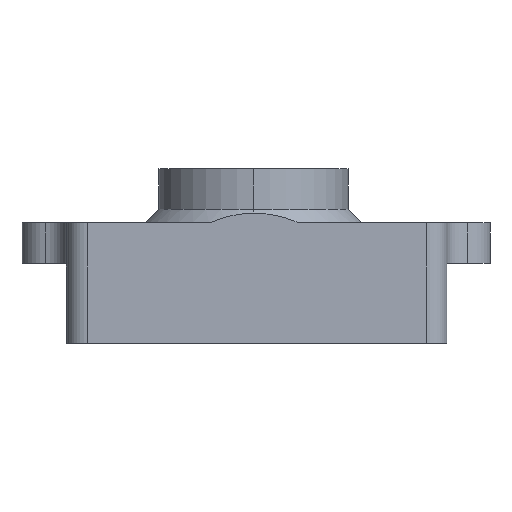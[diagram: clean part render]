
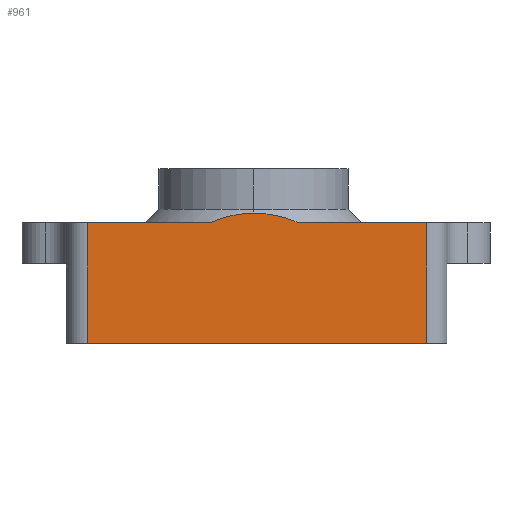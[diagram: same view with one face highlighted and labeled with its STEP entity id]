
A CAD part, left-side view. The second image highlights one B-rep face of the part: STEP entity #961.
In plain terms, the highlighted planar face has unit normal (-1, -0.008, 0).
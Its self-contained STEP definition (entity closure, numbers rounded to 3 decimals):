
#9 = CARTESIAN_POINT ( 'NONE',  ( 23.317, -13.139, -5.9 ) ) ;
#25 = DIRECTION ( 'NONE',  ( 0., 0., 1. ) ) ;
#31 = LINE ( 'NONE', #46, #297 ) ;
#46 = CARTESIAN_POINT ( 'NONE',  ( 23.329, -14.638, 3. ) ) ;
#86 = VERTEX_POINT ( 'NONE', #9 ) ;
#92 = VERTEX_POINT ( 'NONE', #979 ) ;
#123 = CARTESIAN_POINT ( 'NONE',  ( 23.115, 13.467, -5.9 ) ) ;
#140 = ORIENTED_EDGE ( 'NONE', *, *, #425, .F. ) ;
#151 = VECTOR ( 'NONE', #1313, 1000. ) ;
#152 = CARTESIAN_POINT ( 'NONE',  ( 23.195, 2.956, 3. ) ) ;
#165 = CARTESIAN_POINT ( 'NONE',  ( 23.246, -3.707, 3. ) ) ;
#175 = CARTESIAN_POINT ( 'NONE',  ( 23.229, -1.486, 3.648 ) ) ;
#181 = CARTESIAN_POINT ( 'NONE',  ( 23.22, -0.321, 3.727 ) ) ;
#191 = CARTESIAN_POINT ( 'NONE',  ( 23.195, 2.956, 3. ) ) ;
#208 = PLANE ( 'NONE',  #988 ) ;
#297 = VECTOR ( 'NONE', #674, 1000. ) ;
#325 = DIRECTION ( 'NONE',  ( -0.008, 1., 0. ) ) ;
#364 = EDGE_LOOP ( 'NONE', ( #1079, #1032, #1274, #793, #140, #460, #813 ) ) ;
#398 = CARTESIAN_POINT ( 'NONE',  ( 23.237, -2.617, 3.409 ) ) ;
#413 = B_SPLINE_CURVE_WITH_KNOTS ( 'NONE', 3,
 ( #1405, #877, #432, #1305, #1218, #152 ),
 .UNSPECIFIED., .F., .F.,
 ( 4, 2, 4 ),
 ( 0.003, 0.005, 0.007 ),
 .UNSPECIFIED. ) ;
#417 = CARTESIAN_POINT ( 'NONE',  ( 23.329, -14.638, 3. ) ) ;
#424 = LINE ( 'NONE', #869, #938 ) ;
#425 = EDGE_CURVE ( 'NONE', #913, #92, #31, .T. ) ;
#432 = CARTESIAN_POINT ( 'NONE',  ( 23.211, 0.8, 3.652 ) ) ;
#460 = ORIENTED_EDGE ( 'NONE', *, *, #934, .T. ) ;
#499 = CARTESIAN_POINT ( 'NONE',  ( 23.241, -3.167, 3.225 ) ) ;
#505 = CARTESIAN_POINT ( 'NONE',  ( 23.246, -3.707, 3. ) ) ;
#509 = LINE ( 'NONE', #417, #1116 ) ;
#549 = LINE ( 'NONE', #1277, #151 ) ;
#568 = EDGE_CURVE ( 'NONE', #720, #1219, #549, .T. ) ;
#643 = CARTESIAN_POINT ( 'NONE',  ( 23.329, -14.638, 3. ) ) ;
#656 = DIRECTION ( 'NONE',  ( 1., 0.008, 0. ) ) ;
#674 = DIRECTION ( 'NONE',  ( 0.008, -1., 0. ) ) ;
#720 = VERTEX_POINT ( 'NONE', #1224 ) ;
#745 = VECTOR ( 'NONE', #894, 1000. ) ;
#793 = ORIENTED_EDGE ( 'NONE', *, *, #1092, .T. ) ;
#813 = ORIENTED_EDGE ( 'NONE', *, *, #897, .T. ) ;
#815 = VERTEX_POINT ( 'NONE', #1201 ) ;
#831 = DIRECTION ( 'NONE',  ( 0.008, -1., 0. ) ) ;
#869 = CARTESIAN_POINT ( 'NONE',  ( 23.317, -13.139, 3. ) ) ;
#877 = CARTESIAN_POINT ( 'NONE',  ( 23.216, 0.245, 3.722 ) ) ;
#883 = EDGE_CURVE ( 'NONE', #86, #1219, #997, .T. ) ;
#894 = DIRECTION ( 'NONE',  ( -0.008, 1., 0. ) ) ;
#897 = EDGE_CURVE ( 'NONE', #815, #1025, #413, .T. ) ;
#913 = VERTEX_POINT ( 'NONE', #505 ) ;
#934 = EDGE_CURVE ( 'NONE', #913, #815, #1352, .T. ) ;
#938 = VECTOR ( 'NONE', #25, 1000. ) ;
#961 = ADVANCED_FACE ( 'NONE', ( #1171 ), #208, .F. ) ;
#979 = CARTESIAN_POINT ( 'NONE',  ( 23.317, -13.139, 3. ) ) ;
#988 = AXIS2_PLACEMENT_3D ( 'NONE', #643, #656, #325 ) ;
#997 = LINE ( 'NONE', #123, #745 ) ;
#1025 = VERTEX_POINT ( 'NONE', #191 ) ;
#1031 = CARTESIAN_POINT ( 'NONE',  ( 23.222, -0.613, 3.729 ) ) ;
#1032 = ORIENTED_EDGE ( 'NONE', *, *, #568, .T. ) ;
#1079 = ORIENTED_EDGE ( 'NONE', *, *, #1247, .F. ) ;
#1092 = EDGE_CURVE ( 'NONE', #86, #92, #424, .T. ) ;
#1116 = VECTOR ( 'NONE', #831, 1000. ) ;
#1129 = CARTESIAN_POINT ( 'NONE',  ( 23.231, -1.771, 3.599 ) ) ;
#1148 = CARTESIAN_POINT ( 'NONE',  ( 23.224, -0.908, 3.713 ) ) ;
#1171 = FACE_OUTER_BOUND ( 'NONE', #364, .T. ) ;
#1201 = CARTESIAN_POINT ( 'NONE',  ( 23.22, -0.321, 3.727 ) ) ;
#1218 = CARTESIAN_POINT ( 'NONE',  ( 23.199, 2.432, 3.218 ) ) ;
#1219 = VERTEX_POINT ( 'NONE', #1375 ) ;
#1224 = CARTESIAN_POINT ( 'NONE',  ( 23.126, 11.967, 3. ) ) ;
#1247 = EDGE_CURVE ( 'NONE', #720, #1025, #509, .T. ) ;
#1274 = ORIENTED_EDGE ( 'NONE', *, *, #883, .F. ) ;
#1277 = CARTESIAN_POINT ( 'NONE',  ( 23.126, 11.967, 3. ) ) ;
#1305 = CARTESIAN_POINT ( 'NONE',  ( 23.203, 1.892, 3.4 ) ) ;
#1313 = DIRECTION ( 'NONE',  ( 0., 0., -1. ) ) ;
#1352 = B_SPLINE_CURVE_WITH_KNOTS ( 'NONE', 3,
 ( #165, #499, #398, #1129, #175, #1148, #1031, #181 ),
 .UNSPECIFIED., .F., .F.,
 ( 4, 2, 2, 4 ),
 ( 0., 0.002, 0.003, 0.003 ),
 .UNSPECIFIED. ) ;
#1375 = CARTESIAN_POINT ( 'NONE',  ( 23.126, 11.967, -5.9 ) ) ;
#1405 = CARTESIAN_POINT ( 'NONE',  ( 23.22, -0.321, 3.727 ) ) ;
